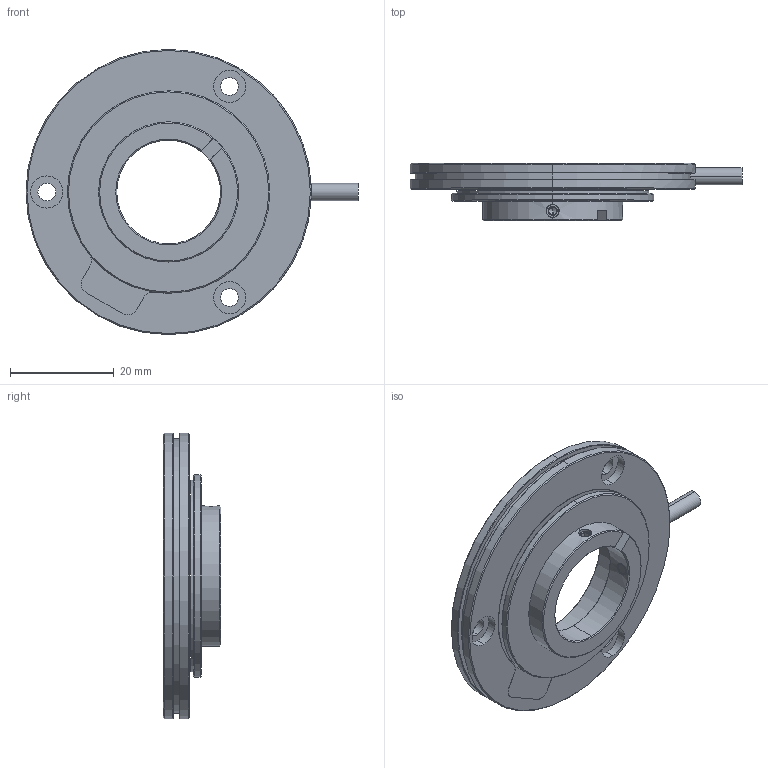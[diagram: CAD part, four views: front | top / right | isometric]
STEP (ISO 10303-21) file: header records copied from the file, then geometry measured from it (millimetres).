
FILE_DESCRIPTION (( 'STEP AP214' ), '1' );
FILE_NAME ('GMI-ROT-055-C11-K0x-ST_rev01.STEP', '2023-11-08T08:47:49', ( '' ), ( '' ), 'SwSTEP 2.0', 'SolidWorks 2021', '' );
FILE_SCHEMA (( 'AUTOMOTIVE_DESIGN' ));
Length unit declared in the file: millimetre
Products named in the file (1): GMI-ROT-055-C11-K0x-ST_rev01
Bounding box: 64 x 11.1 x 55 mm (x, y, z)
Volume: 10941.9 mm3; surface area: 13088.6 mm2
Topology: 8 solids, 8 shells, 246 faces, 567 edges, 348 vertices
Faces by surface type: cylinder 110, plane 69, cone 67
Entity records: 10014 total; most frequent: CARTESIAN_POINT 1428, DIRECTION 1321, ORIENTED_EDGE 1126, EDGE_CURVE 563, AXIS2_PLACEMENT_3D 545, VERTEX_POINT 348, CIRCLE 298, EDGE_LOOP 281
